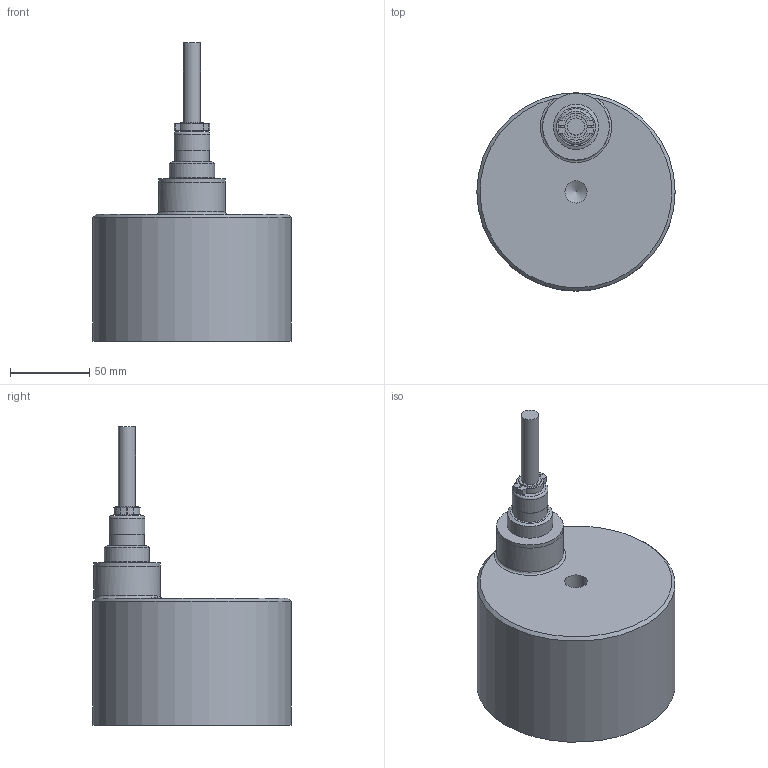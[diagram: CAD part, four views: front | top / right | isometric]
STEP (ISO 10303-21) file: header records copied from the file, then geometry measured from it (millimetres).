
FILE_DESCRIPTION(/* description */ (''),/* implementation_level */ '2;1');
FILE_NAME(/* name */ 'EMH-1-125Dx80H-V.step',/* time_stamp */ '2023-12-15T14:25:21+09:00',/* author */ (''),/* organization */ (''),/* preprocessor_version */ 'ST-DEVELOPER v20',/* originating_system */ 'Autodesk Translation Framework v12.14.0.127',/* authorisation */ '');
FILE_SCHEMA (('AUTOMOTIVE_DESIGN { 1 0 10303 214 3 1 1 }'));
Length unit declared in the file: millimetre
Products named in the file (7): EMH-1-125Dx80H-V; BODY; NCS-252-R; FB5-10; Cable; NCS-252-P; BODY_1
Assembly tree (7 placements, depth 4):
  EMH-1-125Dx80H-V
    BODY
      NCS-252-R
    FB5-10  x2
    Cable
      NCS-252-P
        BODY_1
Bounding box: 125 x 125 x 188 mm (x, y, z)
Volume: 1024189.9 mm3; surface area: 74673.7 mm2
Topology: 8 solids, 8 shells, 118 faces, 241 edges, 154 vertices
Faces by surface type: plane 65, cylinder 35, cone 13, torus 3, bspline 2
Full cylindrical faces by diameter (mm): 3.1 x2, 4 x2, 4.234 x2, 5 x2, 10 x2, 10.8 x1, 14 x1, 14.023 x1, 21.4 x1, 22 x2, 22.6 x1, 24.884 x1, 25 x3, 28.5 x1, 42 x2, 55 x1, 113 x1, 125 x1
Entity records: 2905 total; most frequent: CARTESIAN_POINT 533, DIRECTION 509, ORIENTED_EDGE 386, AXIS2_PLACEMENT_3D 209, EDGE_CURVE 193, VERTEX_POINT 127, EDGE_LOOP 118, FACE_OUTER_BOUND 99
